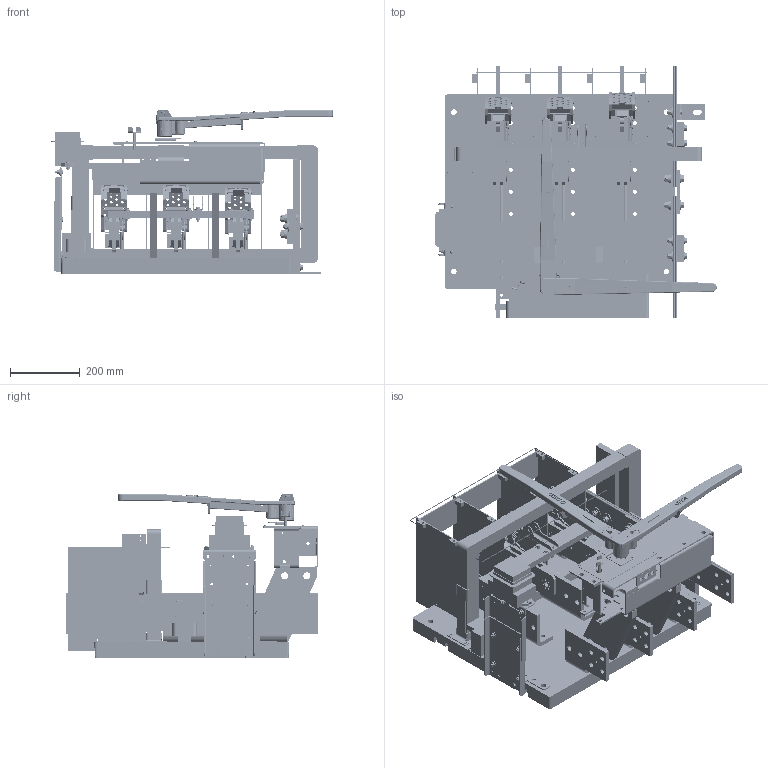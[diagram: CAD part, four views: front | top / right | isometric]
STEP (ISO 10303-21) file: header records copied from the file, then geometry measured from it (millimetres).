
FILE_DESCRIPTION(/* description */ (''),/* implementation_level */ '2;1');
FILE_NAME(/* name */ 'H:\switches\3d-templates\catalog-switches-iges-files\CATALOG-VL3610G6.stp',/* time_stamp */ '2022-03-23T14:58:10-05:00',/* author */ ('MKingston'),/* organization */ (''),/* preprocessor_version */ 'ST-DEVELOPER v18.1',/* originating_system */ 'Autodesk Inventor 2022',/* authorisation */ '');
FILE_SCHEMA (('AUTOMOTIVE_DESIGN { 1 0 10303 214 3 1 1 }'));
Products named in the file (95): catalog-VL3610; 277; 669-D; 669-C; 669-E; CATALOG-2000amp-blade-assy; 69-AL; 69-AR; 67-fc3; 69-gc3; 67-j; 69-M; ANSI/ASME B18.7 - T 0.252 x 17/32; ANSI/ASME B18.7 - T 0.188 x 17/32; 235-b; CATALOG-57-qj-arc-chute-assy; 50-QLX; 50-QRX; 363-da; 363-da_MIR; 57-QJT; 57-QJB; 57-QJS; 57-QJSB; 57-QJST; ANSI B18.6.3 - 8-32 UNC - 3; ANSI B18.2.2 - 8 - 32; ANSI B18.6.4 - No. 8 - 32 - 3/8; 230-a; 255-z; 246-a; 223-d-transparent; 255-bha; 255-c; 178-c; gfi-ring-assembly; GFS10X24; 277-ma; gfr-1-mounting-assembly; 277-L1T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
Assembly tree (241 placements, depth 4):
  catalog-VL3610
    277
    669-D  x3
    669-C  x3
    669-E  x3
    CATALOG-2000amp-blade-assy  x3
      69-AL
      69-AR
      67-fc3
      69-gc3
      67-j
      69-M
      ANSI/ASME B18.7 - T 0.252 x 17/32
      ANSI/ASME B18.7 - T 0.188 x 17/32
    235-b
    CATALOG-57-qj-arc-chute-assy  x3
      50-QLX
      50-QRX
      363-da
      363-da_MIR
      57-QJT
      57-QJB
      57-QJS
      57-QJSB
      57-QJST
      ANSI B18.6.3 - 8-32 UNC - 3
      ANSI B18.2.2 - 8 - 32
      ANSI B18.6.4 - No. 8 - 32 - 3/8
    230-a
    255-bha  x4
    255-z
    246-a  x2
    223-d-transparent
    255-c
    178-c  x8
    gfi-ring-assembly
      GFS10X24
      277-ma
    gfr-1-mounting-assembly
      277-L1T
      277-l2
      277-l3
      277-l4
      gfr-1
      Bolted Connection
        ANSI B18.22.1 - No. 10 - Type A  x4
        ASME B18.21.1 - No. 10. Carbon Steel, ETLWTB(1)  x4
        ANSI B18.6.3 - 10 - 32 x 7/8 SR HMS  x2
        ANSI B18.2.2 - 10 - 32, HMSNI  x2
      Bolted Connection_1
        ANSI B18.5 - 1/4-20 UNC - 0.75, RHBI  x6
        ASTM F436 - 1/4, CW  x6
        ASME B18.21.1 - 1/4. Carbon Steel, HITLWTB(1)  x6
        ANSI B18.2.2 - 1/4 - 20, HNI  x6
    transformer
    2000-VL-NEUTRAL
      675-a
      675-ef  x2
      676-j  x4
      677-d  x2
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Bounding box: 807.2 x 725.27 x 469.37 mm (x, y, z)
Volume: 22466329.9 mm3; surface area: 5112615.1 mm2
Topology: 296 solids, 297 shells, 8782 faces, 22138 edges, 14317 vertices
Faces by surface type: plane 4340, cylinder 2575, cone 1165, bspline 459, torus 193, sphere 50
Full cylindrical faces by diameter (mm): 1.702 x8, 3.175 x4, 3.302 x8, 3.581 x2, 3.683 x8, 3.759 x12, 3.962 x11, 4.089 x4, 4.166 x24, 4.305 x42, 4.366 x2, 4.496 x24, 4.653 x4, 4.762 x4, 4.775 x11, 4.801 x8, 4.826 x2, 4.902 x14, 4.915 x24, 4.953 x4, 4.978 x11, 5.462 x4, 5.537 x3, 5.556 x5, 5.563 x4, 5.791 x6, 6.35 x58, 6.401 x9, 6.528 x78, 6.604 x8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
Entity records: 134090 total; most frequent: CARTESIAN_POINT 33043, DIRECTION 20290, ORIENTED_EDGE 19972, EDGE_CURVE 9994, AXIS2_PLACEMENT_3D 7189, VERTEX_POINT 6460, LINE 5912, VECTOR 5912
